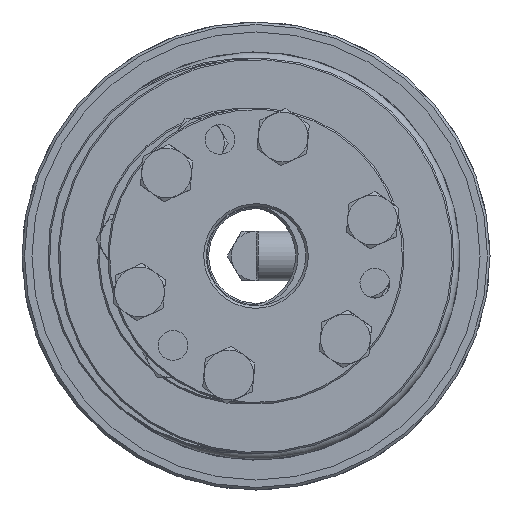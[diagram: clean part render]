
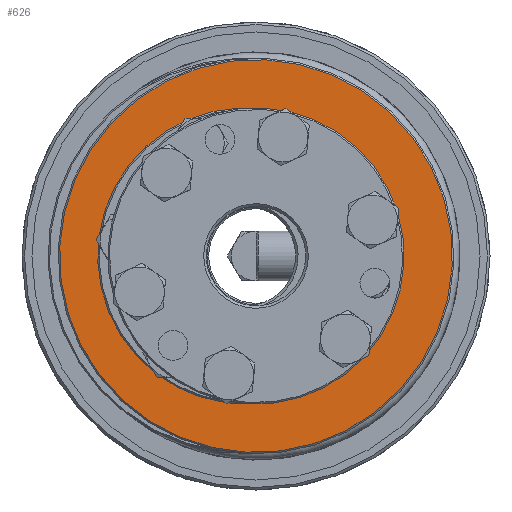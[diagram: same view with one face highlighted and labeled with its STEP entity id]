
A CAD part, left-side view. The second image highlights one B-rep face of the part: STEP entity #626.
In plain terms, the highlighted planar face has unit normal (-1, 0, 0) as drawn and (1, 0, 0) by its records, which use the part's own axes.
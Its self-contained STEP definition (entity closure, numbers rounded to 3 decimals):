
#626 = ADVANCED_FACE( 'NONE', ( #1029, #1030, #1031, #1032, #1033, #1034, #1035, #1036 ), #1037, .F. );
#1029 = FACE_OUTER_BOUND( '', #1650, .T. );
#1030 = FACE_BOUND( '', #1651, .T. );
#1031 = FACE_BOUND( '', #1652, .T. );
#1032 = FACE_BOUND( '', #1653, .T. );
#1033 = FACE_BOUND( '', #1654, .T. );
#1034 = FACE_BOUND( '', #1655, .T. );
#1035 = FACE_BOUND( '', #1656, .T. );
#1036 = FACE_BOUND( '', #1657, .T. );
#1037 = PLANE( '', #1658 );
#1650 = EDGE_LOOP( '', ( #2437 ) );
#1651 = EDGE_LOOP( '', ( #2438 ) );
#1652 = EDGE_LOOP( '', ( #2439 ) );
#1653 = EDGE_LOOP( '', ( #2440 ) );
#1654 = EDGE_LOOP( '', ( #2441 ) );
#1655 = EDGE_LOOP( '', ( #2442 ) );
#1656 = EDGE_LOOP( '', ( #2443 ) );
#1657 = EDGE_LOOP( '', ( #2444 ) );
#1658 = AXIS2_PLACEMENT_3D( '', #2445, #2446, #2447 );
#2437 = ORIENTED_EDGE( '', *, *, #3506, .T. );
#2438 = ORIENTED_EDGE( '', *, *, #3524, .T. );
#2439 = ORIENTED_EDGE( '', *, *, #3518, .F. );
#2440 = ORIENTED_EDGE( '', *, *, #3525, .F. );
#2441 = ORIENTED_EDGE( '', *, *, #3517, .F. );
#2442 = ORIENTED_EDGE( '', *, *, #3516, .F. );
#2443 = ORIENTED_EDGE( '', *, *, #3515, .F. );
#2444 = ORIENTED_EDGE( '', *, *, #3526, .F. );
#2445 = CARTESIAN_POINT( '', ( 20., 39.75, 0. ) );
#2446 = DIRECTION( '', ( -1., 0., 0. ) );
#2447 = DIRECTION( '', ( 0., 0., 1. ) );
#3506 = EDGE_CURVE( 'NONE', #3911, #3911, #3912, .T. );
#3515 = EDGE_CURVE( 'NONE', #3929, #3929, #3930, .T. );
#3516 = EDGE_CURVE( 'NONE', #3931, #3931, #3932, .T. );
#3517 = EDGE_CURVE( 'NONE', #3933, #3933, #3934, .T. );
#3518 = EDGE_CURVE( 'NONE', #3935, #3935, #3936, .T. );
#3524 = EDGE_CURVE( 'NONE', #3947, #3947, #3948, .T. );
#3525 = EDGE_CURVE( 'NONE', #3949, #3949, #3950, .T. );
#3526 = EDGE_CURVE( 'NONE', #3951, #3951, #3952, .T. );
#3911 = VERTEX_POINT( '', #4489 );
#3912 = CIRCLE( '', #4490, 39.45 );
#3929 = VERTEX_POINT( '', #4507 );
#3930 = CIRCLE( '', #4508, 3. );
#3931 = VERTEX_POINT( '', #4509 );
#3932 = CIRCLE( '', #4510, 3. );
#3933 = VERTEX_POINT( '', #4511 );
#3934 = CIRCLE( '', #4512, 3. );
#3935 = VERTEX_POINT( '', #4513 );
#3936 = CIRCLE( '', #4514, 3. );
#3947 = VERTEX_POINT( '', #4525 );
#3948 = CIRCLE( '', #4526, 20.835 );
#3949 = VERTEX_POINT( '', #4527 );
#3950 = CIRCLE( '', #4528, 3. );
#3951 = VERTEX_POINT( '', #4529 );
#3952 = CIRCLE( '', #4530, 3. );
#4489 = CARTESIAN_POINT( '', ( 20., 0., 39.45 ) );
#4490 = AXIS2_PLACEMENT_3D( '', #5625, #5626, #5627 );
#4507 = CARTESIAN_POINT( '', ( 20., -24.5, -3. ) );
#4508 = AXIS2_PLACEMENT_3D( '', #5652, #5653, #5654 );
#4509 = CARTESIAN_POINT( '', ( 20., -12.25, -24.218 ) );
#4510 = AXIS2_PLACEMENT_3D( '', #5655, #5656, #5657 );
#4511 = CARTESIAN_POINT( '', ( 20., 12.25, -24.218 ) );
#4512 = AXIS2_PLACEMENT_3D( '', #5658, #5659, #5660 );
#4513 = CARTESIAN_POINT( '', ( 20., -12.25, 18.218 ) );
#4514 = AXIS2_PLACEMENT_3D( '', #5661, #5662, #5663 );
#4525 = CARTESIAN_POINT( '', ( 20., 0., 20.835 ) );
#4526 = AXIS2_PLACEMENT_3D( '', #5679, #5680, #5681 );
#4527 = CARTESIAN_POINT( '', ( 20., 24.5, -3. ) );
#4528 = AXIS2_PLACEMENT_3D( '', #5682, #5683, #5684 );
#4529 = CARTESIAN_POINT( '', ( 20., 12.25, 18.218 ) );
#4530 = AXIS2_PLACEMENT_3D( '', #5685, #5686, #5687 );
#5625 = CARTESIAN_POINT( '', ( 20., 0., 0. ) );
#5626 = DIRECTION( '', ( 1., 0., 0. ) );
#5627 = DIRECTION( '', ( 0., 0., 1. ) );
#5652 = CARTESIAN_POINT( '', ( 20., -24.5, 0. ) );
#5653 = DIRECTION( '', ( 1., 0., 0. ) );
#5654 = DIRECTION( '', ( 0., 0., -1. ) );
#5655 = CARTESIAN_POINT( '', ( 20., -12.25, -21.218 ) );
#5656 = DIRECTION( '', ( 1., 0., 0. ) );
#5657 = DIRECTION( '', ( 0., 0., -1. ) );
#5658 = CARTESIAN_POINT( '', ( 20., 12.25, -21.218 ) );
#5659 = DIRECTION( '', ( 1., 0., 0. ) );
#5660 = DIRECTION( '', ( 0., 0., -1. ) );
#5661 = CARTESIAN_POINT( '', ( 20., -12.25, 21.218 ) );
#5662 = DIRECTION( '', ( 1., 0., 0. ) );
#5663 = DIRECTION( '', ( 0., 0., -1. ) );
#5679 = CARTESIAN_POINT( '', ( 20., 0., 0. ) );
#5680 = DIRECTION( '', ( -1., 0., 0. ) );
#5681 = DIRECTION( '', ( 0., 0., 1. ) );
#5682 = CARTESIAN_POINT( '', ( 20., 24.5, 0. ) );
#5683 = DIRECTION( '', ( 1., 0., 0. ) );
#5684 = DIRECTION( '', ( 0., 0., -1. ) );
#5685 = CARTESIAN_POINT( '', ( 20., 12.25, 21.218 ) );
#5686 = DIRECTION( '', ( 1., 0., 0. ) );
#5687 = DIRECTION( '', ( 0., 0., -1. ) );
